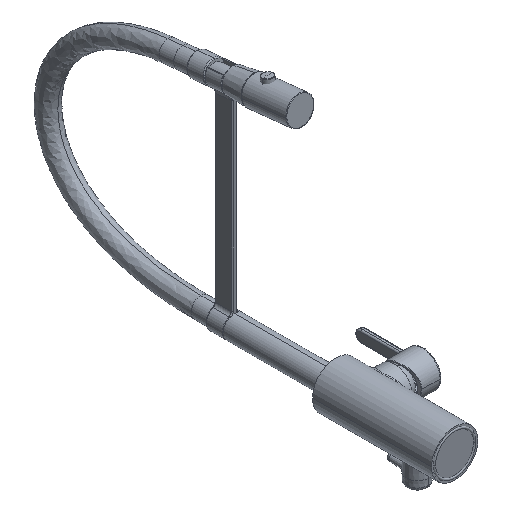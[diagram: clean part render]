
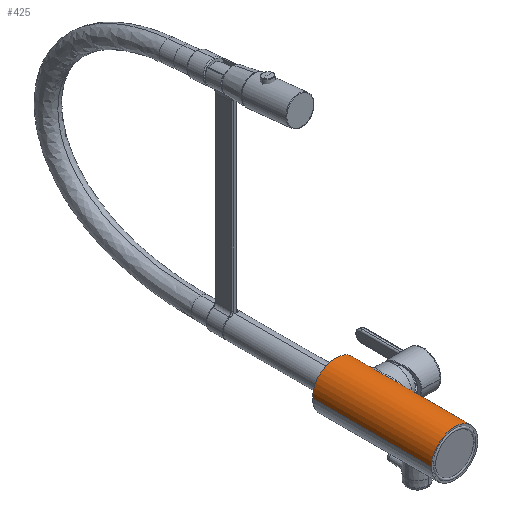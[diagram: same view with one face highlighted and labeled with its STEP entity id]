
A CAD part, isometric view. The second image highlights one B-rep face of the part: STEP entity #425.
In plain terms, the highlighted cylindrical face has radius 23.5 mm (diameter 47 mm), a partial arc.
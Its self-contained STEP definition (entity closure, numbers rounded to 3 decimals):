
#1=CARTESIAN_POINT('',(23.5,111.,0.));
#2=CARTESIAN_POINT('',(23.5,111.,0.278));
#3=CARTESIAN_POINT('',(23.49,110.988,0.834));
#4=CARTESIAN_POINT('',(23.446,110.936,1.667));
#5=CARTESIAN_POINT('',(23.372,110.85,2.497));
#6=CARTESIAN_POINT('',(23.269,110.729,3.325));
#7=CARTESIAN_POINT('',(23.136,110.574,4.147));
#8=CARTESIAN_POINT('',(22.975,110.382,4.965));
#9=CARTESIAN_POINT('',(22.784,110.154,5.777));
#10=CARTESIAN_POINT('',(22.564,109.889,6.584));
#11=CARTESIAN_POINT('',(22.315,109.584,7.384));
#12=CARTESIAN_POINT('',(22.038,109.24,8.174));
#13=CARTESIAN_POINT('',(21.732,108.854,8.956));
#14=CARTESIAN_POINT('',(21.398,108.425,9.727));
#15=CARTESIAN_POINT('',(21.038,107.953,10.483));
#16=CARTESIAN_POINT('',(20.652,107.436,11.225));
#17=CARTESIAN_POINT('',(20.241,106.872,11.948));
#18=CARTESIAN_POINT('',(19.81,106.261,12.65));
#19=CARTESIAN_POINT('',(19.361,105.604,13.327));
#20=CARTESIAN_POINT('',(18.897,104.9,13.977));
#21=CARTESIAN_POINT('',(18.424,104.152,14.594));
#22=CARTESIAN_POINT('',(17.949,103.364,15.175));
#23=CARTESIAN_POINT('',(17.477,102.539,15.715));
#24=CARTESIAN_POINT('',(17.017,101.684,16.212));
#25=CARTESIAN_POINT('',(16.575,100.807,16.662));
#26=CARTESIAN_POINT('',(16.162,99.919,17.063));
#27=CARTESIAN_POINT('',(15.78,99.025,17.416));
#28=CARTESIAN_POINT('',(15.434,98.131,17.723));
#29=CARTESIAN_POINT('',(15.129,97.246,17.984));
#30=CARTESIAN_POINT('',(14.866,96.378,18.201));
#31=CARTESIAN_POINT('',(14.646,95.536,18.378));
#32=CARTESIAN_POINT('',(14.469,94.726,18.518));
#33=CARTESIAN_POINT('',(14.33,93.949,18.626));
#34=CARTESIAN_POINT('',(14.225,93.188,18.706));
#35=CARTESIAN_POINT('',(14.152,92.444,18.761));
#36=CARTESIAN_POINT('',(14.109,91.71,18.793));
#37=CARTESIAN_POINT('',(14.095,90.981,18.804));
#38=CARTESIAN_POINT('',(14.11,90.253,18.792));
#39=CARTESIAN_POINT('',(14.154,89.518,18.759));
#40=CARTESIAN_POINT('',(14.228,88.773,18.703));
#41=CARTESIAN_POINT('',(14.335,88.012,18.622));
#42=CARTESIAN_POINT('',(14.475,87.232,18.513));
#43=CARTESIAN_POINT('',(14.654,86.422,18.372));
#44=CARTESIAN_POINT('',(14.875,85.579,18.194));
#45=CARTESIAN_POINT('',(15.139,84.711,17.975));
#46=CARTESIAN_POINT('',(15.447,83.824,17.712));
#47=CARTESIAN_POINT('',(15.794,82.929,17.403));
#48=CARTESIAN_POINT('',(16.177,82.034,17.048));
#49=CARTESIAN_POINT('',(16.593,81.144,16.645));
#50=CARTESIAN_POINT('',(17.035,80.267,16.193));
#51=CARTESIAN_POINT('',(17.496,79.412,15.694));
#52=CARTESIAN_POINT('',(17.968,78.588,15.152));
#53=CARTESIAN_POINT('',(18.443,77.801,14.57));
#54=CARTESIAN_POINT('',(18.916,77.054,13.952));
#55=CARTESIAN_POINT('',(19.379,76.352,13.302));
#56=CARTESIAN_POINT('',(19.827,75.696,12.624));
#57=CARTESIAN_POINT('',(20.257,75.088,11.923));
#58=CARTESIAN_POINT('',(20.665,74.527,11.2));
#59=CARTESIAN_POINT('',(21.05,74.012,10.459));
#60=CARTESIAN_POINT('',(21.409,73.542,9.703));
#61=CARTESIAN_POINT('',(21.741,73.116,8.935));
#62=CARTESIAN_POINT('',(22.045,72.733,8.154));
#63=CARTESIAN_POINT('',(22.321,72.391,7.366));
#64=CARTESIAN_POINT('',(22.569,72.09,6.568));
#65=CARTESIAN_POINT('',(22.787,71.827,5.764));
#66=CARTESIAN_POINT('',(22.977,71.601,4.954));
#67=CARTESIAN_POINT('',(23.138,71.413,4.138));
#68=CARTESIAN_POINT('',(23.27,71.26,3.318));
#69=CARTESIAN_POINT('',(23.372,71.142,2.493));
#70=CARTESIAN_POINT('',(23.446,71.059,1.664));
#71=CARTESIAN_POINT('',(23.49,71.01,0.833));
#72=CARTESIAN_POINT('',(23.5,70.999,0.278));
#73=CARTESIAN_POINT('',(23.5,71.,0.));
#75=CARTESIAN_POINT('',(0.,0.,0.));
#76=DIRECTION('',(0.,-1.,0.));
#77=DIRECTION('',(1.,0.,0.));
#78=AXIS2_PLACEMENT_3D('',#75,#76,#77);
#90=CARTESIAN_POINT('',(23.5,71.,0.));
#162=CARTESIAN_POINT('',(23.5,111.,
0.));
#164=DIRECTION('',(0.,1.,0.));
#165=VECTOR('',#164,9.868);
#166=CARTESIAN_POINT('',(23.5,111.,
0.));
#167=LINE('',#166,#165);
#168=DIRECTION('',(0.,1.,0.));
#169=VECTOR('',#168,120.868);
#170=CARTESIAN_POINT('',(-23.5,0.,0.));
#171=LINE('',#170,#169);
#177=DIRECTION('',(0.,1.,0.));
#178=VECTOR('',#177,71.);
#179=CARTESIAN_POINT('',(23.5,0.,0.));
#180=LINE('',#179,#178);
#194=CARTESIAN_POINT('',(0.,120.868,0.));
#195=DIRECTION('',(0.,-1.,0.));
#196=DIRECTION('',(1.,0.,0.));
#197=AXIS2_PLACEMENT_3D('',#194,#195,#196);
#375=CARTESIAN_POINT('',(23.5,120.868,0.));
#377=VERTEX_POINT('',#375);
#379=CARTESIAN_POINT('',(-23.5,0.,0.));
#380=CARTESIAN_POINT('',(-23.5,120.868,0.));
#381=VERTEX_POINT('',#379);
#382=VERTEX_POINT('',#380);
#385=CARTESIAN_POINT('',(23.5,0.,0.));
#386=VERTEX_POINT('',#385);
#391=VERTEX_POINT('',#90);
#392=VERTEX_POINT('',#162);
#407=CARTESIAN_POINT('',(0.,131.25,0.));
#408=DIRECTION('',(0.,-1.,0.));
#409=DIRECTION('',(-1.,0.,0.));
#410=AXIS2_PLACEMENT_3D('',#407,#408,#409);
#411=CYLINDRICAL_SURFACE('',#410,23.5);
#413=ORIENTED_EDGE('',*,*,#412,.T.);
#415=ORIENTED_EDGE('',*,*,#414,.F.);
#416=ORIENTED_EDGE('',*,*,#400,.T.);
#418=ORIENTED_EDGE('',*,*,#417,.T.);
#420=ORIENTED_EDGE('',*,*,#419,.F.);
#422=ORIENTED_EDGE('',*,*,#421,.F.);
#423=EDGE_LOOP('',(#413,#415,#416,#418,#420,#422));
#424=FACE_OUTER_BOUND('',#423,.F.);
#425=ADVANCED_FACE('',(#424),#411,.T.);
#74=B_SPLINE_CURVE_WITH_KNOTS('',3,(#1,#2,#3,#4,#5,#6,#7,#8,#9,#10,#11,#12,#13,
#14,#15,#16,#17,#18,#19,#20,#21,#22,#23,#24,#25,#26,#27,#28,#29,#30,#31,#32,#33,
#34,#35,#36,#37,#38,#39,#40,#41,#42,#43,#44,#45,#46,#47,#48,#49,#50,#51,#52,#53,
#54,#55,#56,#57,#58,#59,#60,#61,#62,#63,#64,#65,#66,#67,#68,#69,#70,#71,#72,
#73),.UNSPECIFIED.,.F.,.F.,(4,1,1,1,1,1,1,1,1,1,1,1,1,1,1,1,1,1,1,1,1,1,1,1,1,1,
1,1,1,1,1,1,1,1,1,1,1,1,1,1,1,1,1,1,1,1,1,1,1,1,1,1,1,1,1,1,1,1,1,1,1,1,1,1,1,1,
1,1,1,1,4),(0.,0.014,0.029,0.043,
0.057,0.071,0.086,0.1,0.114,
0.129,0.143,0.157,0.171,
0.186,0.2,0.214,0.229,0.243,
0.257,0.271,0.286,0.3,0.314,
0.329,0.343,0.357,0.371,
0.386,0.4,0.414,0.429,0.443,
0.457,0.471,0.486,0.5,0.514,
0.529,0.543,0.557,0.571,
0.586,0.6,0.614,0.629,0.643,
0.657,0.671,0.686,0.7,0.714,
0.729,0.743,0.757,0.771,
0.786,0.8,0.814,0.829,0.843,
0.857,0.871,0.886,0.9,0.914,
0.929,0.943,0.957,0.971,
0.986,1.),.UNSPECIFIED.);
#79=CIRCLE('',#78,23.5);
#198=CIRCLE('',#197,23.5);
#400=EDGE_CURVE('',#386,#381,#79,.T.);
#412=EDGE_CURVE('',#392,#391,#74,.T.);
#414=EDGE_CURVE('',#386,#391,#180,.T.);
#417=EDGE_CURVE('',#381,#382,#171,.T.);
#419=EDGE_CURVE('',#377,#382,#198,.T.);
#421=EDGE_CURVE('',#392,#377,#167,.T.);
